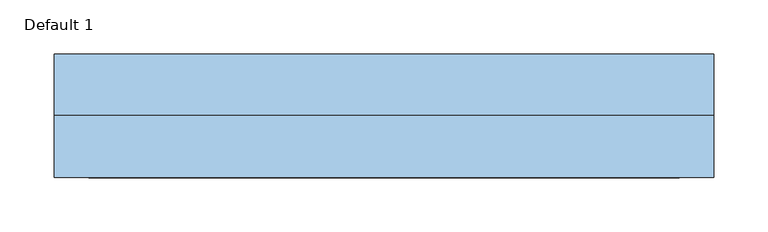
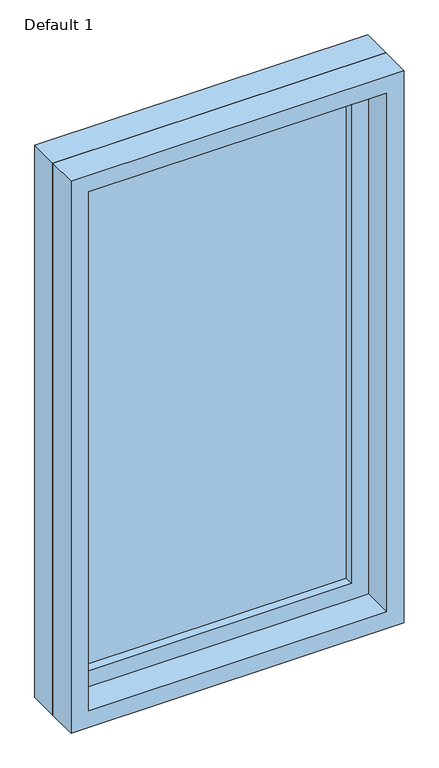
"""IFC4 building model written with IfcOpenShell, lengths in millimetres: window geometry, Planitar-Fixed : Default 1."""

from ifc_helpers import new_model, si_unit, frame, origin, place, context, project, spatial, polyline, outline, extrude, source, transform, mapped, element, save


def default_1_ebdee1d1(model_context):
    return source(origin(), model_context, "Body", "SweptSolid", [
        extrude(outline(polyline([(1962.2, -285.8), (933.4, -285.8), (933.4, 285.8), (1962.2, 285.8), (1962.2, -285.8)]), holes=[polyline([(1918.2, -241.8), (1918.2, 241.8), (977.4, 241.8), (977.4, -241.8), (1918.2, -241.8)])]), frame((0.0, 13.45, 0.0), z_axis=(0.0, 1.0, 0.0), x_axis=(0.0, 0.0, 1.0)), (0.0, 0.0, 1.0), 44.0),
        extrude(outline(polyline([(1981.2, -304.8), (914.4, -304.8), (914.4, 304.8), (1981.2, 304.8), (1981.2, -304.8)]), holes=[polyline([(1962.2, -285.8), (1962.2, 285.8), (933.4, 285.8), (933.4, -285.8), (1962.2, -285.8)])]), frame((0.0, 13.45, 0.0), z_axis=(0.0, 1.0, 0.0), x_axis=(0.0, 0.0, 1.0)), (0.0, 0.0, 1.0), 56.7),
        extrude(outline(polyline([(1981.2, -304.8), (914.4, -304.8), (914.4, 304.8), (1981.2, 304.8), (1981.2, -304.8)]), holes=[polyline([(1949.2, -272.8), (1949.2, 272.8), (946.4, 272.8), (946.4, -272.8), (1949.2, -272.8)])]), frame((0.0, -44.15, 0.0), z_axis=(0.0, 1.0, 0.0), x_axis=(0.0, 0.0, 1.0)), (0.0, 0.0, 1.0), 57.6),
        extrude(outline(polyline([(-241.8, 41.45), (241.8, 41.45), (241.8, 29.45), (-241.8, 29.45), (-241.8, 41.45)])), frame((0.0, 0.0, 977.4), z_axis=(0.0, 0.0, 1.0), x_axis=(1.0, 0.0, 0.0)), (0.0, 0.0, 1.0), 940.8),
    ])


if __name__ == "__main__":
    model = new_model("IFC4")
    model_context = context("Model", 3, world=origin())
    ifc_project = project(units=[si_unit("LENGTHUNIT", "METRE", prefix="MILLI")], contexts=[model_context])
    site = spatial("IfcSite", under=ifc_project)
    building = spatial("IfcBuilding", under=site)
    placement = place(None, origin())
    default_1_shape = default_1_ebdee1d1(model_context)
    element("IfcWindow", 1, ObjectType="Planitar-Fixed : Default 1", at=placement, inside=building, context=model_context, shape_type="MappedRepresentation", body=[
        mapped(default_1_shape, transform((0.0, 0.0, 0.0), x_axis=(1.0, 0.0, 0.0), y_axis=(0.0, 1.0, 0.0), z_axis=(0.0, 0.0, 1.0))),
    ])
    save(model, "model.ifc")
